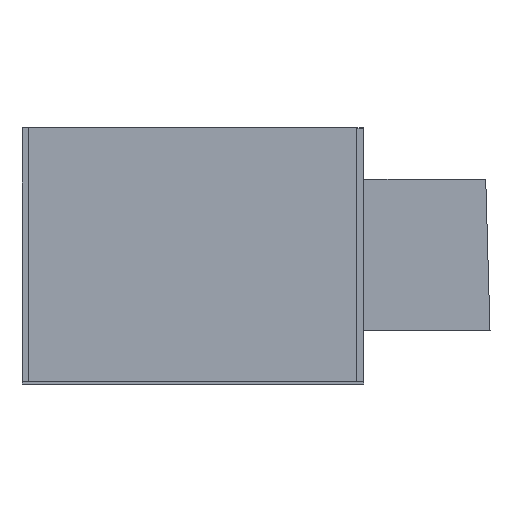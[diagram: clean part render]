
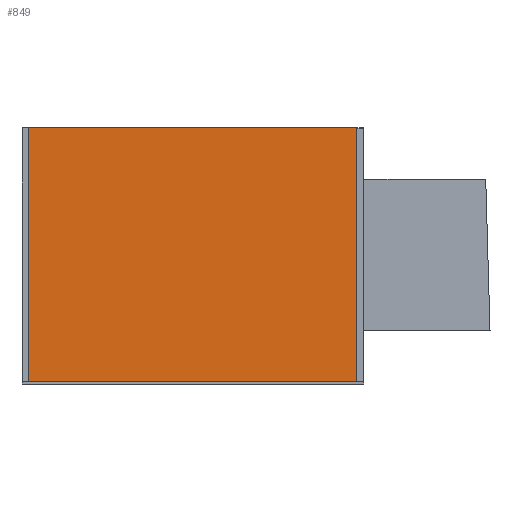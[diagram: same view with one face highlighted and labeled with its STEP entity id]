
A CAD part, left-side view. The second image highlights one B-rep face of the part: STEP entity #849.
In plain terms, the highlighted planar face has unit normal (-1, 0, 0) as drawn and (0, 0, 1) by its records, which use the part's own axes.
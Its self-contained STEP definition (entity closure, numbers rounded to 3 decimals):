
#36 = VERTEX_POINT ( 'NONE', #6938 ) ;
#347 = DIRECTION ( 'NONE',  ( -1., 0., 0. ) ) ;
#353 = ORIENTED_EDGE ( 'NONE', *, *, #4798, .F. ) ;
#445 = ORIENTED_EDGE ( 'NONE', *, *, #2086, .F. ) ;
#570 = ORIENTED_EDGE ( 'NONE', *, *, #5459, .F. ) ;
#646 = EDGE_CURVE ( 'NONE', #6904, #3576, #1055, .T. ) ;
#849 = ADVANCED_FACE ( 'NONE', ( #2833 ), #3603, .F. ) ;
#1055 = CIRCLE ( 'NONE', #3770, 0.2 ) ;
#1209 = LINE ( 'NONE', #6174, #1536 ) ;
#1363 = CIRCLE ( 'NONE', #4205, 0.2 ) ;
#1388 = VECTOR ( 'NONE', #8256, 1000. ) ;
#1509 = VECTOR ( 'NONE', #7856, 1000. ) ;
#1536 = VECTOR ( 'NONE', #1917, 1000. ) ;
#1553 = VERTEX_POINT ( 'NONE', #2469 ) ;
#1667 = CARTESIAN_POINT ( 'NONE',  ( -148.176, 457.487, 0. ) ) ;
#1681 = VERTEX_POINT ( 'NONE', #4479 ) ;
#1774 = CARTESIAN_POINT ( 'NONE',  ( -148.376, 457.487, 0. ) ) ;
#1803 = VERTEX_POINT ( 'NONE', #4137 ) ;
#1916 = CARTESIAN_POINT ( 'NONE',  ( -148.176, 73.887, 0. ) ) ;
#1917 = DIRECTION ( 'NONE',  ( 0., -1., 0. ) ) ;
#2086 = EDGE_CURVE ( 'NONE', #1681, #3750, #3448, .T. ) ;
#2193 = DIRECTION ( 'NONE',  ( 0., 0., -1. ) ) ;
#2395 = ORIENTED_EDGE ( 'NONE', *, *, #4015, .T. ) ;
#2469 = CARTESIAN_POINT ( 'NONE',  ( -444.976, 457.687, 0. ) ) ;
#2554 = VECTOR ( 'NONE', #2591, 1000. ) ;
#2591 = DIRECTION ( 'NONE',  ( -1., 0., 0. ) ) ;
#2833 = FACE_OUTER_BOUND ( 'NONE', #6246, .T. ) ;
#3281 = EDGE_CURVE ( 'NONE', #1681, #3425, #1363, .T. ) ;
#3425 = VERTEX_POINT ( 'NONE', #1916 ) ;
#3448 = LINE ( 'NONE', #7834, #2554 ) ;
#3576 = VERTEX_POINT ( 'NONE', #7922 ) ;
#3603 = PLANE ( 'NONE',  #6885 ) ;
#3750 = VERTEX_POINT ( 'NONE', #5141 ) ;
#3770 = AXIS2_PLACEMENT_3D ( 'NONE', #1774, #6322, #5685 ) ;
#4015 = EDGE_CURVE ( 'NONE', #1553, #1803, #4352, .T. ) ;
#4137 = CARTESIAN_POINT ( 'NONE',  ( -445.176, 457.487, 0. ) ) ;
#4175 = CARTESIAN_POINT ( 'NONE',  ( -444.976, 73.887, 0. ) ) ;
#4205 = AXIS2_PLACEMENT_3D ( 'NONE', #6343, #6298, #5031 ) ;
#4352 = CIRCLE ( 'NONE', #5438, 0.2 ) ;
#4479 = CARTESIAN_POINT ( 'NONE',  ( -148.376, 73.687, 0. ) ) ;
#4773 = DIRECTION ( 'NONE',  ( 0., 0., 1. ) ) ;
#4798 = EDGE_CURVE ( 'NONE', #36, #1803, #5889, .T. ) ;
#4803 = DIRECTION ( 'NONE',  ( -1., 0., 0. ) ) ;
#5031 = DIRECTION ( 'NONE',  ( -1., 0., 0. ) ) ;
#5141 = CARTESIAN_POINT ( 'NONE',  ( -444.976, 73.687, 0. ) ) ;
#5261 = CARTESIAN_POINT ( 'NONE',  ( -445.176, 457.687, 0. ) ) ;
#5438 = AXIS2_PLACEMENT_3D ( 'NONE', #5482, #8131, #347 ) ;
#5459 = EDGE_CURVE ( 'NONE', #1553, #3576, #7094, .T. ) ;
#5482 = CARTESIAN_POINT ( 'NONE',  ( -444.976, 457.487, 0. ) ) ;
#5623 = ORIENTED_EDGE ( 'NONE', *, *, #7011, .F. ) ;
#5685 = DIRECTION ( 'NONE',  ( -1., 0., 0. ) ) ;
#5884 = CIRCLE ( 'NONE', #6709, 0.2 ) ;
#5889 = LINE ( 'NONE', #5261, #1509 ) ;
#6088 = ORIENTED_EDGE ( 'NONE', *, *, #3281, .T. ) ;
#6174 = CARTESIAN_POINT ( 'NONE',  ( -148.176, 457.687, 0. ) ) ;
#6246 = EDGE_LOOP ( 'NONE', ( #353, #8310, #445, #6088, #5623, #6869, #570, #2395 ) ) ;
#6298 = DIRECTION ( 'NONE',  ( 0., 0., 1. ) ) ;
#6322 = DIRECTION ( 'NONE',  ( 0., 0., 1. ) ) ;
#6343 = CARTESIAN_POINT ( 'NONE',  ( -148.376, 73.887, 0. ) ) ;
#6709 = AXIS2_PLACEMENT_3D ( 'NONE', #4175, #4773, #7923 ) ;
#6869 = ORIENTED_EDGE ( 'NONE', *, *, #646, .T. ) ;
#6885 = AXIS2_PLACEMENT_3D ( 'NONE', #7993, #2193, #4803 ) ;
#6904 = VERTEX_POINT ( 'NONE', #1667 ) ;
#6938 = CARTESIAN_POINT ( 'NONE',  ( -445.176, 73.887, 0. ) ) ;
#7011 = EDGE_CURVE ( 'NONE', #6904, #3425, #1209, .T. ) ;
#7094 = LINE ( 'NONE', #7616, #1388 ) ;
#7220 = EDGE_CURVE ( 'NONE', #36, #3750, #5884, .T. ) ;
#7616 = CARTESIAN_POINT ( 'NONE',  ( -148.176, 457.687, 0. ) ) ;
#7834 = CARTESIAN_POINT ( 'NONE',  ( -148.176, 73.687, 0. ) ) ;
#7856 = DIRECTION ( 'NONE',  ( 0., 1., 0. ) ) ;
#7922 = CARTESIAN_POINT ( 'NONE',  ( -148.376, 457.687, 0. ) ) ;
#7923 = DIRECTION ( 'NONE',  ( -1., 0., 0. ) ) ;
#7993 = CARTESIAN_POINT ( 'NONE',  ( -148.176, 73.687, 0. ) ) ;
#8131 = DIRECTION ( 'NONE',  ( 0., 0., 1. ) ) ;
#8256 = DIRECTION ( 'NONE',  ( 1., 0., 0. ) ) ;
#8310 = ORIENTED_EDGE ( 'NONE', *, *, #7220, .T. ) ;
